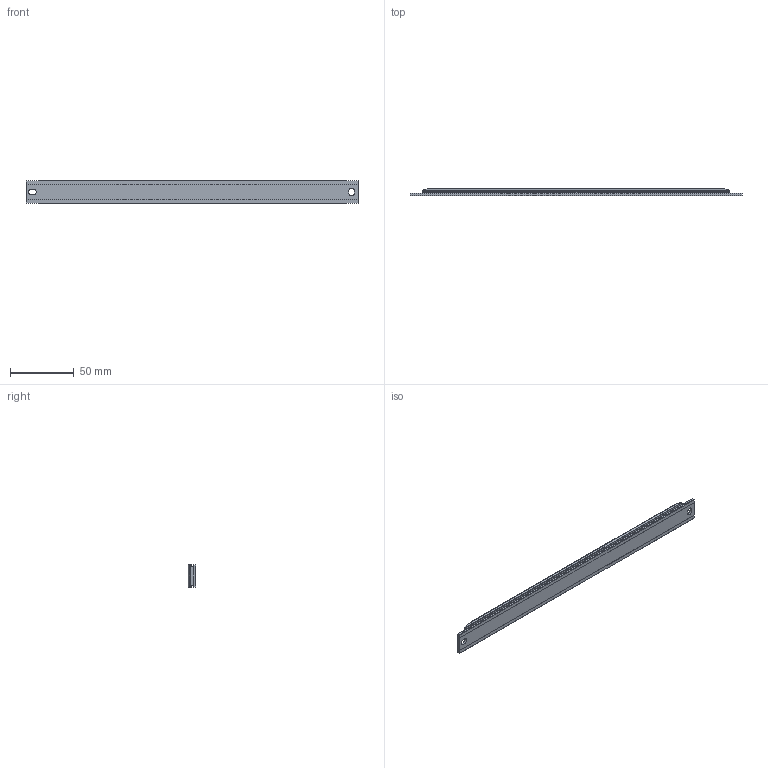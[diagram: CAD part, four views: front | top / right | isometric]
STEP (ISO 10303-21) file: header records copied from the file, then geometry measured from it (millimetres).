
FILE_DESCRIPTION (( 'STEP AP214' ), '1' );
FILE_NAME ('HLMScale.ScaleLength260.STEP', '2023-02-07T05:55:30', ( '' ), ( '' ), 'SwSTEP 2.0', 'SolidWorks 2020', '' );
FILE_SCHEMA (( 'AUTOMOTIVE_DESIGN' ));
Length unit declared in the file: millimetre
Products named in the file (1): HLMScale.ScaleLength260
Bounding box: 260 x 6.08 x 18 mm (x, y, z)
Volume: 24897.3 mm3; surface area: 14188.1 mm2
Topology: 1 solids, 1 shells, 56 faces, 149 edges, 98 vertices
Faces by surface type: plane 31, cylinder 25
Entity records: 1857 total; most frequent: CARTESIAN_POINT 412, ORIENTED_EDGE 298, DIRECTION 285, EDGE_CURVE 149, LINE 103, VECTOR 103, VERTEX_POINT 98, AXIS2_PLACEMENT_3D 91
